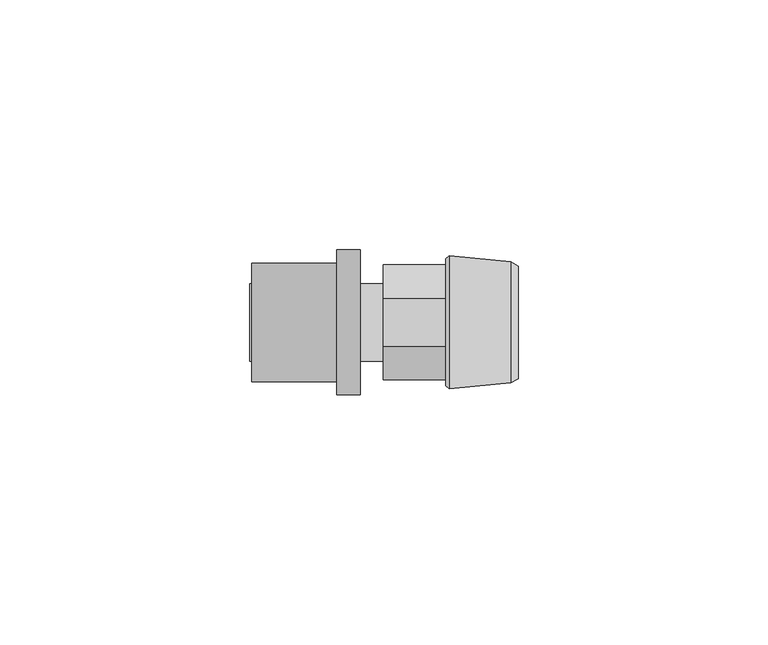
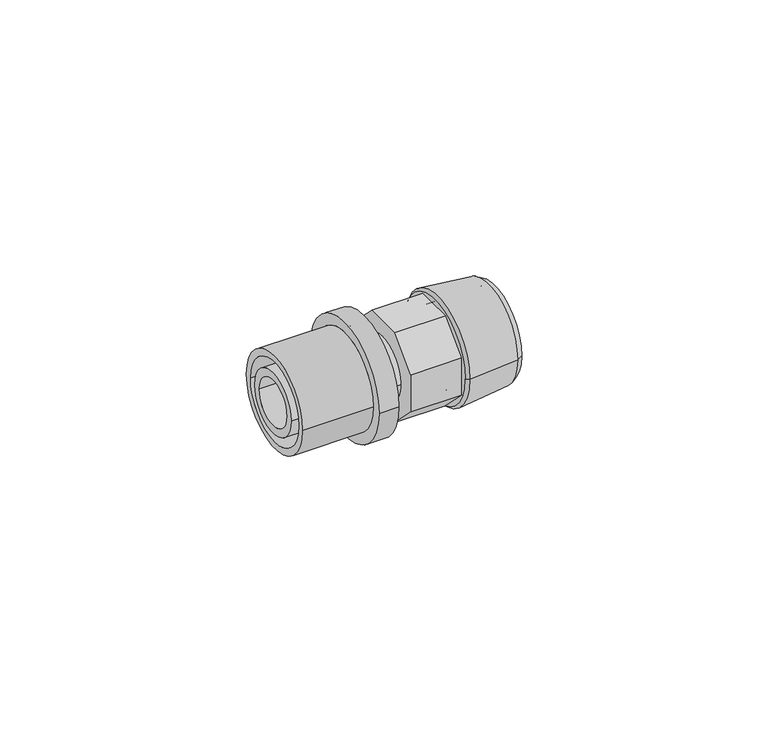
"""IFC4 building model written with IfcOpenShell, lengths in millimetres: pipe fitting geometry, FASTLOC_Adapter_RX+, with external thread : FSL A C external EX+ AT."""

from ifc_helpers import new_model, si_unit, frame, origin, place, context, project, spatial, polyline, circle_curve, outline, extrude, source, transform, mapped, element, save
from ifc_brep_helpers import plane_surface, cylinder_surface, revolved_surface, advanced_brep


def pipe_fitting_ed7d2527(model_context):
    return source(origin(), model_context, "Body", "SolidModel", [
        advanced_brep(
        [(-9.3, -14.5, 0.0), (-9.3, 14.5, 0.0), (-4.6, 14.5, 0.0), (-4.6, -14.5, 0.0), (-26.3, -11.85, 0.0), (-26.3, 11.85, 0.0), (-9.3, 11.85, 0.0), (-9.3, -11.85, 0.0), (-4.6, -10.15, 0.0), (-4.6, 10.15, 0.0), (-26.3, 10.15, 0.0), (-26.3, -10.15, 0.0)],
        [
            (0, 1, circle_curve(frame((-9.3, 0.0, 0.0), z_axis=(1.0, 0.0, 0.0), x_axis=(0.0, 1.0, 0.0)), 14.5)),
            (1, 2),
            (2, 3, circle_curve(frame((-4.6, 0.0, 0.0), z_axis=(-1.0, 0.0, 0.0), x_axis=(0.0, 1.0, 0.0)), 14.5)),
            (3, 0),
            (4, 5, circle_curve(frame((-26.3, 0.0, 0.0), z_axis=(1.0, 0.0, 0.0), x_axis=(0.0, 1.0, 0.0)), 11.85)),
            (5, 6),
            (6, 7, circle_curve(frame((-9.3, 0.0, 0.0), z_axis=(-1.0, 0.0, 0.0), x_axis=(0.0, 1.0, 0.0)), 11.85)),
            (7, 4),
            (8, 9, circle_curve(frame((-4.6, 0.0, 0.0), z_axis=(1.0, 0.0, 0.0), x_axis=(0.0, 1.0, 0.0)), 10.15)),
            (9, 10),
            (10, 11, circle_curve(frame((-26.3, 0.0, 0.0), z_axis=(-1.0, 0.0, 0.0), x_axis=(0.0, 1.0, 0.0)), 10.15)),
            (11, 8),
            (1, 0, circle_curve(frame((-9.3, 0.0, 0.0), z_axis=(1.0, 0.0, 0.0), x_axis=(0.0, -1.0, 0.0)), 14.5)),
            (3, 2, circle_curve(frame((-4.6, 0.0, 0.0), z_axis=(-1.0, 0.0, 0.0), x_axis=(0.0, -1.0, 0.0)), 14.5)),
            (6, 7, circle_curve(frame((-9.3, 0.0, 0.0), z_axis=(1.0, 0.0, 0.0), x_axis=(0.0, -1.0, 0.0)), 11.85)),
            (5, 4, circle_curve(frame((-26.3, 0.0, 0.0), z_axis=(1.0, 0.0, 0.0), x_axis=(0.0, -1.0, 0.0)), 11.85)),
            (10, 11, circle_curve(frame((-26.3, 0.0, 0.0), z_axis=(1.0, 0.0, 0.0), x_axis=(0.0, -1.0, 0.0)), 10.15)),
            (9, 8, circle_curve(frame((-4.6, 0.0, 0.0), z_axis=(1.0, 0.0, 0.0), x_axis=(0.0, -1.0, 0.0)), 10.15)),
        ],
        [
            cylinder_surface(frame((-4.6, 0.0, 0.0), z_axis=(-1.0, 0.0, 0.0), x_axis=(0.0, 1.0, 0.0)), 14.5),
            cylinder_surface(frame((-4.6, 0.0, 0.0), z_axis=(-1.0, 0.0, 0.0), x_axis=(0.0, 1.0, 0.0)), 11.85),
            revolved_surface(polyline([(-26.300000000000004, 10.15, 0.0), (-4.6, 10.15, 0.0)]), (-4.6, 0.0, 0.0), (-1.0, 0.0, 0.0)),
            cylinder_surface(frame((-4.6, 0.0, 0.0), z_axis=(-1.0, 0.0, 0.0), x_axis=(0.0, -1.0, 0.0)), 14.5),
            plane_surface(frame((-9.3, 0.0, 0.0), z_axis=(-1.0, 0.0, 0.0), x_axis=(0.0, -1.0, 0.0))),
            cylinder_surface(frame((-4.6, 0.0, 0.0), z_axis=(-1.0, 0.0, 0.0), x_axis=(0.0, -1.0, 0.0)), 11.85),
            plane_surface(frame((-26.3, 0.0, 0.0), z_axis=(-1.0, 0.0, 0.0), x_axis=(0.0, -1.0, 0.0))),
            revolved_surface(polyline([(-26.300000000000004, -10.15, 0.0), (-4.6, -10.15, 0.0)]), (-4.6, 0.0, 0.0), (-1.0, 0.0, 0.0)),
            plane_surface(frame((-4.6, 0.0, 0.0), z_axis=(1.0, 0.0, 0.0), x_axis=(0.0, -1.0, 0.0))),
        ],
        [
            (0, [[1, 2, 3, 4]]),
            (1, [[5, 6, 7, 8]]),
            (2, [[9, 10, 11, 12]]),
            (3, [[13, -4, 14, -2]]),
            (4, [[-13, -1], [15, -7]]),
            (5, [[16, -8, -15, -6]]),
            (6, [[-16, -5], [17, -11]]),
            (7, [[18, -12, -17, -10]]),
            (8, [[-14, -3], [-18, -9]]),
        ],
    ),
        advanced_brep(
        [(13.6032803, 9.5, 0.0), (13.6032803, -9.5, 0.0), (27.0, -9.5, 0.0), (27.0, 9.5, 0.0), (12.5, 8.3967197, 0.0), (12.5, -8.3967197, 0.0), (13.2406902, 13.3, 0.0), (13.2406902, -13.3, 0.0), (12.5, -12.7, 0.0), (12.5, 12.7, 0.0), (25.5000007, 12.1, 0.0), (25.5000007, -12.1, 0.0), (27.0, 11.25, 0.0), (27.0, -11.25, 0.0)],
        [
            (0, 1, circle_curve(frame((13.6032803, 0.0, 0.0), z_axis=(-1.0, 0.0, 0.0), x_axis=(0.0, -1.0, 0.0)), 9.5)),
            (1, 2),
            (2, 3, circle_curve(frame((27.0, 0.0, 0.0), z_axis=(1.0, 0.0, 0.0), x_axis=(0.0, -1.0, 0.0)), 9.5)),
            (3, 0),
            (4, 5, circle_curve(frame((12.5, 0.0, 0.0), z_axis=(-1.0, 0.0, 0.0), x_axis=(0.0, -1.0, 0.0)), 8.3967197)),
            (5, 1),
            (0, 4),
            (6, 7, circle_curve(frame((13.2406902, 0.0, 0.0), z_axis=(-1.0, 0.0, 0.0), x_axis=(0.0, -1.0, 0.0)), 13.3)),
            (7, 8),
            (8, 9, circle_curve(frame((12.5, 0.0, 0.0), z_axis=(1.0, 0.0, 0.0), x_axis=(0.0, -1.0, 0.0)), 12.7)),
            (9, 6),
            (10, 11, circle_curve(frame((25.5000007, 0.0, 0.0), z_axis=(-1.0, 0.0, 0.0), x_axis=(0.0, -1.0, 0.0)), 12.1)),
            (11, 7),
            (6, 10),
            (12, 13, circle_curve(frame((27.0, 0.0, 0.0), z_axis=(-1.0, 0.0, 0.0), x_axis=(0.0, -1.0, 0.0)), 11.25)),
            (13, 11),
            (10, 12),
            (1, 0, circle_curve(frame((13.6032803, 0.0, 0.0), z_axis=(-1.0, 0.0, 0.0), x_axis=(0.0, 1.0, 0.0)), 9.5)),
            (3, 2, circle_curve(frame((27.0, 0.0, 0.0), z_axis=(1.0, 0.0, 0.0), x_axis=(0.0, 1.0, 0.0)), 9.5)),
            (5, 4, circle_curve(frame((12.5, 0.0, 0.0), z_axis=(-1.0, 0.0, 0.0), x_axis=(0.0, 1.0, 0.0)), 8.3967197)),
            (8, 9, circle_curve(frame((12.5, 0.0, 0.0), z_axis=(-1.0, 0.0, 0.0), x_axis=(0.0, 1.0, 0.0)), 12.7)),
            (7, 6, circle_curve(frame((13.2406902, 0.0, 0.0), z_axis=(-1.0, 0.0, 0.0), x_axis=(0.0, 1.0, 0.0)), 13.3)),
            (11, 10, circle_curve(frame((25.5000007, 0.0, 0.0), z_axis=(-1.0, 0.0, 0.0), x_axis=(0.0, 1.0, 0.0)), 12.1)),
            (13, 12, circle_curve(frame((27.0, 0.0, 0.0), z_axis=(-1.0, 0.0, 0.0), x_axis=(0.0, 1.0, 0.0)), 11.25)),
        ],
        [
            revolved_surface(polyline([(27.0, -9.5, 0.0), (13.6032803, -9.5, 0.0)]), (0.0, 0.0, 0.0), (1.0, 0.0, 0.0)),
            revolved_surface(polyline([(13.6032803, -9.5, 0.0), (12.5, -8.3967197, 0.0)]), (0.0, 0.0, 0.0), (1.0, 0.0, 0.0)),
            revolved_surface(polyline([(12.5, -12.7, 0.0), (13.2406902, -13.3, 0.0)]), (0.0, 0.0, 0.0), (1.0, 0.0, 0.0)),
            revolved_surface(polyline([(13.2406902, -13.3, 0.0), (25.5000007, -12.1, 0.0)]), (0.0, 0.0, 0.0), (1.0, 0.0, 0.0)),
            revolved_surface(polyline([(25.5000007, -12.1, 0.0), (27.0, -11.25, 0.0)]), (0.0, 0.0, 0.0), (1.0, 0.0, 0.0)),
            revolved_surface(polyline([(27.0, 9.5, 0.0), (13.6032803, 9.5, 0.0)]), (0.0, 0.0, 0.0), (1.0, 0.0, 0.0)),
            revolved_surface(polyline([(13.6032803, 9.5, 0.0), (12.5, 8.3967197, 0.0)]), (0.0, 0.0, 0.0), (1.0, 0.0, 0.0)),
            plane_surface(frame((12.5, 0.0, 0.0), z_axis=(-1.0, 0.0, 0.0), x_axis=(0.0, 1.0, 0.0))),
            revolved_surface(polyline([(12.5, 12.7, 0.0), (13.2406902, 13.3, 0.0)]), (0.0, 0.0, 0.0), (1.0, 0.0, 0.0)),
            revolved_surface(polyline([(13.2406902, 13.3, 0.0), (25.5000007, 12.1, 0.0)]), (0.0, 0.0, 0.0), (1.0, 0.0, 0.0)),
            revolved_surface(polyline([(25.5000007, 12.1, 0.0), (27.0, 11.25, 0.0)]), (0.0, 0.0, 0.0), (1.0, 0.0, 0.0)),
            plane_surface(frame((27.0, 0.0, 0.0), z_axis=(1.0, 0.0, 0.0), x_axis=(0.0, 1.0, 0.0))),
        ],
        [
            (0, [[1, 2, 3, 4]]),
            (1, [[5, 6, -1, 7]]),
            (2, [[8, 9, 10, 11]]),
            (3, [[12, 13, -8, 14]]),
            (4, [[15, 16, -12, 17]]),
            (5, [[18, -4, 19, -2]]),
            (6, [[20, -7, -18, -6]]),
            (7, [[21, -10], [-20, -5]]),
            (8, [[22, -11, -21, -9]]),
            (9, [[23, -14, -22, -13]]),
            (10, [[24, -17, -23, -16]]),
            (11, [[-24, -15], [-19, -3]]),
        ],
    ),
        extrude(outline(polyline([(-11.5, 4.763456), (-4.763456, 11.5), (4.763456, 11.5), (11.5, 4.763456), (11.5, -4.763456), (4.763456, -11.5), (-4.763456, -11.5), (-11.5, -4.763456), (-11.5, 4.763456)])), frame((0.0, 0.0, 0.0), z_axis=(1.0, 0.0, 0.0), x_axis=(0.0, 1.0, 0.0)), (0.0, 0.0, 1.0), 12.5),
        advanced_brep(
        [(-26.7, 5.75, 0.0), (-26.7, -5.75, 0.0), (0.0, -5.75, 0.0), (0.0, 5.75, 0.0), (0.0, 7.75, 0.0), (0.0, -7.75, 0.0), (-6.6, -7.75, 0.0), (-6.6, 7.75, 0.0), (-6.6, 8.8, 0.0), (-6.6, -8.8, 0.0), (-9.3, -8.8, 0.0), (-9.3, 8.8, 0.0), (-9.3, 7.75, 0.0), (-9.3, -7.75, 0.0), (-26.7, -7.75, 0.0), (-26.7, 7.75, 0.0)],
        [
            (0, 1, circle_curve(frame((-26.7, 0.0, 0.0), z_axis=(-1.0, 0.0, 0.0), x_axis=(0.0, -1.0, 0.0)), 5.75)),
            (1, 2),
            (2, 3, circle_curve(frame((0.0, 0.0, 0.0), z_axis=(1.0, 0.0, 0.0), x_axis=(0.0, -1.0, 0.0)), 5.75)),
            (3, 0),
            (4, 5, circle_curve(frame((0.0, 0.0, 0.0), z_axis=(-1.0, 0.0, 0.0), x_axis=(0.0, -1.0, 0.0)), 7.75)),
            (5, 6),
            (6, 7, circle_curve(frame((-6.6, 0.0, 0.0), z_axis=(1.0, 0.0, 0.0), x_axis=(0.0, -1.0, 0.0)), 7.75)),
            (7, 4),
            (8, 9, circle_curve(frame((-6.6, 0.0, 0.0), z_axis=(-1.0, 0.0, 0.0), x_axis=(0.0, -1.0, 0.0)), 8.8)),
            (9, 10),
            (10, 11, circle_curve(frame((-9.3, 0.0, 0.0), z_axis=(1.0, 0.0, 0.0), x_axis=(0.0, -1.0, 0.0)), 8.8)),
            (11, 8),
            (12, 13, circle_curve(frame((-9.3, 0.0, 0.0), z_axis=(-1.0, 0.0, 0.0), x_axis=(0.0, -1.0, 0.0)), 7.75)),
            (13, 14),
            (14, 15, circle_curve(frame((-26.7, 0.0, 0.0), z_axis=(1.0, 0.0, 0.0), x_axis=(0.0, -1.0, 0.0)), 7.75)),
            (15, 12),
            (1, 0, circle_curve(frame((-26.7, 0.0, 0.0), z_axis=(-1.0, 0.0, 0.0), x_axis=(0.0, 1.0, 0.0)), 5.75)),
            (3, 2, circle_curve(frame((0.0, 0.0, 0.0), z_axis=(1.0, 0.0, 0.0), x_axis=(0.0, 1.0, 0.0)), 5.75)),
            (4, 5, circle_curve(frame((0.0, 0.0, 0.0), z_axis=(1.0, 0.0, 0.0), x_axis=(0.0, 1.0, 0.0)), 7.75)),
            (7, 6, circle_curve(frame((-6.6, 0.0, 0.0), z_axis=(1.0, 0.0, 0.0), x_axis=(0.0, 1.0, 0.0)), 7.75)),
            (8, 9, circle_curve(frame((-6.6, 0.0, 0.0), z_axis=(1.0, 0.0, 0.0), x_axis=(0.0, 1.0, 0.0)), 8.8)),
            (11, 10, circle_curve(frame((-9.3, 0.0, 0.0), z_axis=(1.0, 0.0, 0.0), x_axis=(0.0, 1.0, 0.0)), 8.8)),
            (12, 13, circle_curve(frame((-9.3, 0.0, 0.0), z_axis=(1.0, 0.0, 0.0), x_axis=(0.0, 1.0, 0.0)), 7.75)),
            (15, 14, circle_curve(frame((-26.7, 0.0, 0.0), z_axis=(1.0, 0.0, 0.0), x_axis=(0.0, 1.0, 0.0)), 7.75)),
        ],
        [
            revolved_surface(polyline([(0.0, -5.75, 0.0), (-26.7, -5.75, 0.0)]), (0.0, 0.0, 0.0), (1.0, 0.0, 0.0)),
            cylinder_surface(frame((0.0, 0.0, 0.0), z_axis=(1.0, 0.0, 0.0), x_axis=(0.0, -1.0, 0.0)), 7.75),
            cylinder_surface(frame((0.0, 0.0, 0.0), z_axis=(1.0, 0.0, 0.0), x_axis=(0.0, -1.0, 0.0)), 8.8),
            revolved_surface(polyline([(0.0, 5.75, 0.0), (-26.7, 5.75, 0.0)]), (0.0, 0.0, 0.0), (1.0, 0.0, 0.0)),
            plane_surface(frame((0.0, 0.0, 0.0), z_axis=(1.0, 0.0, 0.0), x_axis=(0.0, 1.0, 0.0))),
            cylinder_surface(frame((0.0, 0.0, 0.0), z_axis=(1.0, 0.0, 0.0), x_axis=(0.0, 1.0, 0.0)), 7.75),
            plane_surface(frame((-6.6, 0.0, 0.0), z_axis=(1.0, 0.0, 0.0), x_axis=(0.0, 1.0, 0.0))),
            cylinder_surface(frame((0.0, 0.0, 0.0), z_axis=(1.0, 0.0, 0.0), x_axis=(0.0, 1.0, 0.0)), 8.8),
            plane_surface(frame((-9.3, 0.0, 0.0), z_axis=(-1.0, 0.0, 0.0), x_axis=(0.0, 1.0, 0.0))),
            plane_surface(frame((-26.7, 0.0, 0.0), z_axis=(-1.0, 0.0, 0.0), x_axis=(0.0, 1.0, 0.0))),
        ],
        [
            (0, [[1, 2, 3, 4]]),
            (1, [[5, 6, 7, 8]]),
            (2, [[9, 10, 11, 12]]),
            (1, [[13, 14, 15, 16]]),
            (3, [[17, -4, 18, -2]]),
            (4, [[19, -5], [-18, -3]]),
            (5, [[-19, -8, 20, -6]]),
            (6, [[21, -9], [-20, -7]]),
            (7, [[-21, -12, 22, -10]]),
            (8, [[-22, -11], [23, -13]]),
            (5, [[-23, -16, 24, -14]]),
            (9, [[-24, -15], [-17, -1]]),
        ],
    ),
    ])


if __name__ == "__main__":
    model = new_model("IFC4")
    model_context = context("Model", 3, world=origin())
    ifc_project = project(units=[si_unit("LENGTHUNIT", "METRE", prefix="MILLI")], contexts=[model_context])
    site = spatial("IfcSite", under=ifc_project)
    building = spatial("IfcBuilding", under=site)
    placement = place(None, origin())
    pipe_fitting_shape = pipe_fitting_ed7d2527(model_context)
    element("IfcPipeFitting", 1, ObjectType="FASTLOC_Adapter_RX+, with external thread : FSL A C external EX+ AT", at=placement, inside=building, context=model_context, shape_type="MappedRepresentation", body=[
        mapped(pipe_fitting_shape, transform((0.0, 0.0, 0.0), x_axis=(1.0, 0.0, 0.0), y_axis=(0.0, 1.0, 0.0), z_axis=(0.0, 0.0, 1.0))),
    ])
    save(model, "model.ifc")
